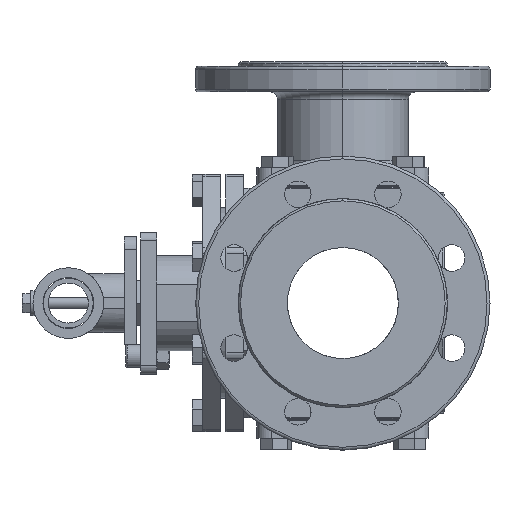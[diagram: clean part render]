
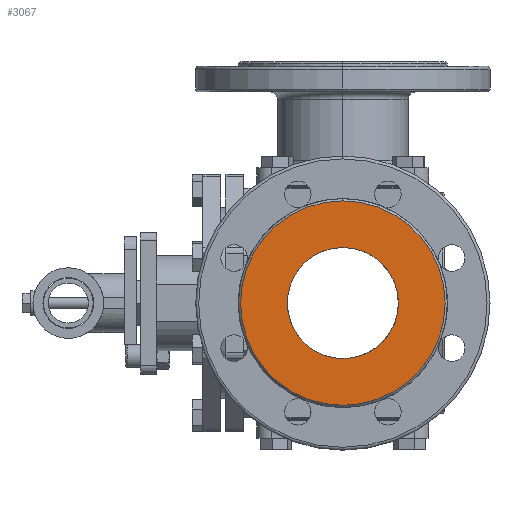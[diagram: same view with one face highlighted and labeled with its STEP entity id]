
A CAD part, left-side view. The second image highlights one B-rep face of the part: STEP entity #3067.
In plain terms, the highlighted planar face has unit normal (-1, 0, 0) as drawn and (1, 0, 0) by its records, which use the part's own axes.
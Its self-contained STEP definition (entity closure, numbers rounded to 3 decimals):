
#1801 = VERTEX_POINT ( 'NONE', #4519 ) ;
#1802 = VERTEX_POINT ( 'NONE', #4520 ) ;
#1811 = VERTEX_POINT ( 'NONE', #4529 ) ;
#1814 = VERTEX_POINT ( 'NONE', #4532 ) ;
#2531 = ORIENTED_EDGE ( 'NONE', *, *, #3171, .T. ) ;
#2532 = ORIENTED_EDGE ( 'NONE', *, *, #15177, .T. ) ;
#2533 = ORIENTED_EDGE ( 'NONE', *, *, #3172, .T. ) ;
#2534 = ORIENTED_EDGE ( 'NONE', *, *, #15181, .T. ) ;
#3067 = ADVANCED_FACE ( 'NONE', ( #8867, #8861 ), #8869, .T. ) ;
#3171 = EDGE_CURVE ( 'NONE', #1801, #1802, #10137, .T. ) ;
#3172 = EDGE_CURVE ( 'NONE', #1814, #1811, #10139, .T. ) ;
#4519 = CARTESIAN_POINT ( 'NONE',  ( 84., 0., 69.5 ) ) ;
#4520 = CARTESIAN_POINT ( 'NONE',  ( 84., 0., -69.5 ) ) ;
#4529 = CARTESIAN_POINT ( 'NONE',  ( 84., 0., -37.75 ) ) ;
#4532 = CARTESIAN_POINT ( 'NONE',  ( 84., 0., 37.75 ) ) ;
#7894 = CARTESIAN_POINT ( 'NONE',  ( 84., 0., 0. ) ) ;
#7895 = DIRECTION ( 'NONE',  ( 1., 0., 0. ) ) ;
#7896 = DIRECTION ( 'NONE',  ( 0., 0., -1. ) ) ;
#7907 = CARTESIAN_POINT ( 'NONE',  ( 84., 0., 0. ) ) ;
#7908 = DIRECTION ( 'NONE',  ( -1., 0., 0. ) ) ;
#7909 = DIRECTION ( 'NONE',  ( 0., 0., 1. ) ) ;
#8861 = FACE_BOUND ( 'NONE', #11956, .T. ) ;
#8864 = DIRECTION ( 'NONE',  ( 1., 0., 0. ) ) ;
#8866 = CARTESIAN_POINT ( 'NONE',  ( 84., 0., 0. ) ) ;
#8867 = FACE_OUTER_BOUND ( 'NONE', #11955, .T. ) ;
#8869 = PLANE ( 'NONE',  #16079 ) ;
#8871 = DIRECTION ( 'NONE',  ( 0., 0., -1. ) ) ;
#9291 = CARTESIAN_POINT ( 'NONE',  ( 84., 0., 0. ) ) ;
#9292 = DIRECTION ( 'NONE',  ( 1., 0., 0. ) ) ;
#9293 = DIRECTION ( 'NONE',  ( 0., 0., -1. ) ) ;
#9294 = CARTESIAN_POINT ( 'NONE',  ( 84., 0., 0. ) ) ;
#9295 = DIRECTION ( 'NONE',  ( -1., 0., 0. ) ) ;
#9296 = DIRECTION ( 'NONE',  ( 0., 0., 1. ) ) ;
#10137 = CIRCLE ( 'NONE', #10142, 69.5 ) ;
#10139 = CIRCLE ( 'NONE', #10144, 37.75 ) ;
#10142 = AXIS2_PLACEMENT_3D ( 'NONE', #9291, #9292, #9293 ) ;
#10144 = AXIS2_PLACEMENT_3D ( 'NONE', #9294, #9295, #9296 ) ;
#11955 = EDGE_LOOP ( 'NONE', ( #2531, #2532 ) ) ;
#11956 = EDGE_LOOP ( 'NONE', ( #2533, #2534 ) ) ;
#12695 = CIRCLE ( 'NONE', #12697, 69.5 ) ;
#12697 = AXIS2_PLACEMENT_3D ( 'NONE', #7894, #7895, #7896 ) ;
#12699 = CIRCLE ( 'NONE', #12703, 37.75 ) ;
#12703 = AXIS2_PLACEMENT_3D ( 'NONE', #7907, #7908, #7909 ) ;
#15177 = EDGE_CURVE ( 'NONE', #1802, #1801, #12695, .T. ) ;
#15181 = EDGE_CURVE ( 'NONE', #1811, #1814, #12699, .T. ) ;
#16079 = AXIS2_PLACEMENT_3D ( 'NONE', #8866, #8864, #8871 ) ;
